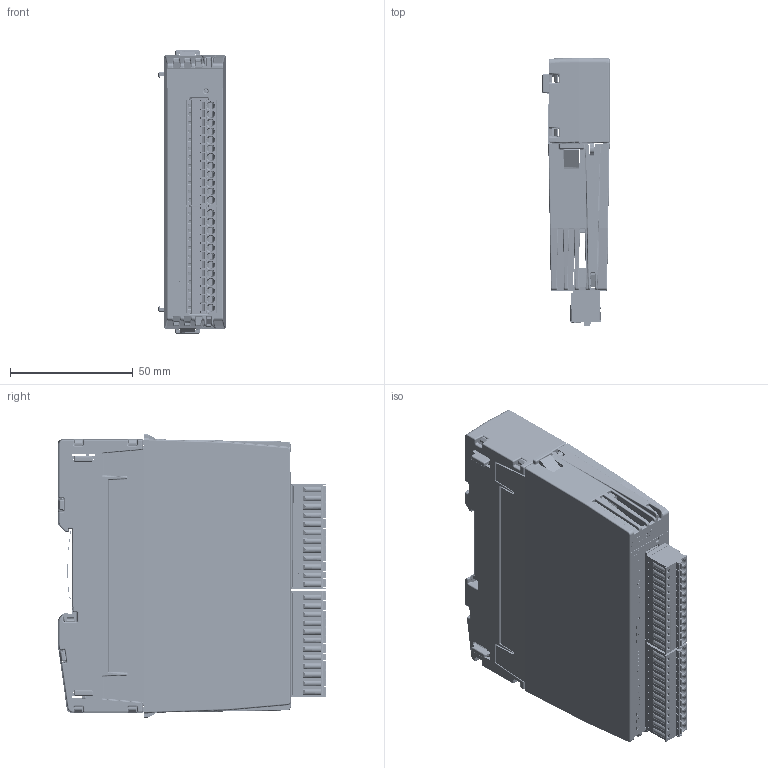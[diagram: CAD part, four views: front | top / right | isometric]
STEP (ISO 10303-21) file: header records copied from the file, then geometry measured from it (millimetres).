
FILE_DESCRIPTION(/* description */ (''),/* implementation_level */ '2;1');
FILE_NAME(/* name */ 'C:\Users\Public\Documents\Autodesk\Inventor 2023\AI08A_Simplified+BackBB21A.stp',/* time_stamp */ '2024-10-15T21:20:23+02:00',/* author */ ('shoma'),/* organization */ (''),/* preprocessor_version */ 'ST-DEVELOPER v19',/* originating_system */ 'Autodesk Inventor 2023',/* authorisation */ '');
FILE_SCHEMA (('AUTOMOTIVE_DESIGN { 1 0 10303 214 3 1 1 }'));
Products named in the file (1): AI08A_Simplified+BackBB21A
Bounding box: 27.4 x 109.39 x 115.5 mm (x, y, z)
Volume: 155135.2 mm3; surface area: 94473.4 mm2
Topology: 7 solids, 57 shells, 9491 faces, 25231 edges, 15916 vertices
Faces by surface type: plane 5765, cylinder 2404, bspline 878, cone 237, sphere 162, torus 45
Full cylindrical faces by diameter (mm): 0.296 x2, 0.3 x152, 0.457 x2, 0.7 x36, 0.8 x6, 0.85 x24, 0.9 x8, 1.17 x24, 1.2 x24, 1.25 x24, 1.3 x24, 1.4 x4, 1.6 x26, 2.35 x2, 2.5 x1, 3 x1, 3.1 x24, 3.25 x2
Entity records: 328140 total; most frequent: CARTESIAN_POINT 83920, ORIENTED_EDGE 50156, DIRECTION 46426, EDGE_CURVE 25078, LINE 17782, VECTOR 17782, VERTEX_POINT 15916, AXIS2_PLACEMENT_3D 14322
